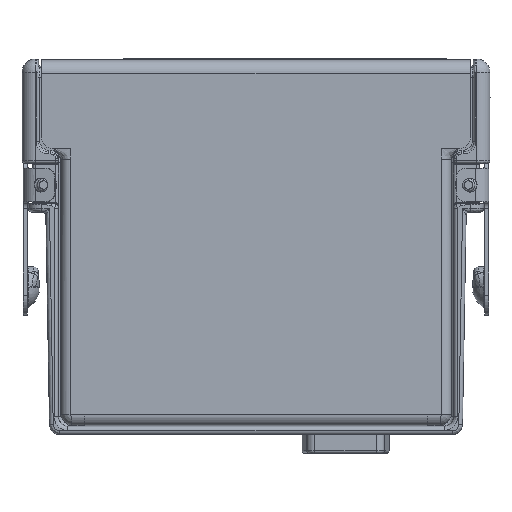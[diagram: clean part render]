
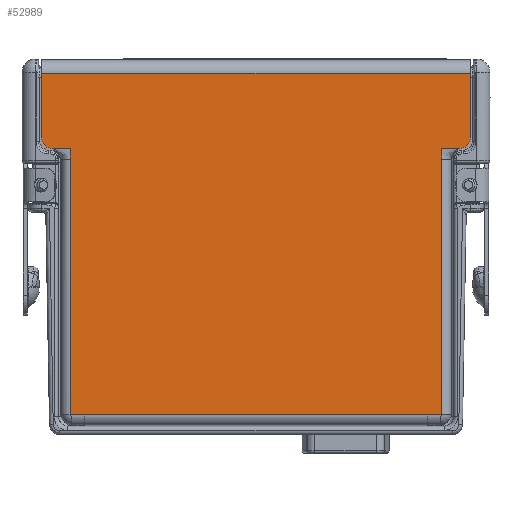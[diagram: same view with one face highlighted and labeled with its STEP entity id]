
A CAD part, left-side view. The second image highlights one B-rep face of the part: STEP entity #52989.
In plain terms, the highlighted planar face has unit normal (-1, 0, 0).
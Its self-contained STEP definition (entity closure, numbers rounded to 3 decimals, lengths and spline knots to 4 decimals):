
#17946=DIRECTION('',(0.,-1.,0.));
#17947=VECTOR('',#17946,2.543);
#17948=CARTESIAN_POINT('',(-0.4475,1.2715,0.146));
#17949=LINE('',#17948,#17947);
#17958=DIRECTION('',(0.,0.,-1.));
#17959=VECTOR('',#17958,0.476);
#17960=CARTESIAN_POINT('',(-0.4475,1.5895,2.676));
#17961=LINE('',#17960,#17959);
#17962=DIRECTION('',(0.,0.,1.));
#17963=VECTOR('',#17962,0.476);
#17964=CARTESIAN_POINT('',(-0.4475,-1.5895,2.2));
#17965=LINE('',#17964,#17963);
#17966=DIRECTION('',(0.,0.,1.));
#17967=VECTOR('',#17966,0.079);
#17968=CARTESIAN_POINT('',(-0.4475,-1.3765,2.041));
#17969=LINE('',#17968,#17967);
#17970=DIRECTION('',(0.,-1.,0.));
#17971=VECTOR('',#17970,0.105);
#17972=CARTESIAN_POINT('',(-0.4475,-1.2715,0.146));
#17973=LINE('',#17972,#17971);
#17974=DIRECTION('',(0.,-1.,0.));
#17975=VECTOR('',#17974,0.105);
#17976=CARTESIAN_POINT('',(-0.4475,1.3765,0.146));
#17977=LINE('',#17976,#17975);
#17978=DIRECTION('',(0.,0.,1.));
#17979=VECTOR('',#17978,0.079);
#17980=CARTESIAN_POINT('',(-0.4475,1.3765,2.041));
#17981=LINE('',#17980,#17979);
#17995=CARTESIAN_POINT('',(-0.4475,1.5095,2.2));
#17996=DIRECTION('',(-1.,0.,0.));
#17997=DIRECTION('',(0.,1.,0.));
#17998=AXIS2_PLACEMENT_3D('',#17995,#17996,#17997);
#18000=DIRECTION('',(0.,-1.,0.));
#18001=VECTOR('',#18000,0.133);
#18002=CARTESIAN_POINT('',(-0.4475,1.5095,2.12));
#18003=LINE('',#18002,#18001);
#18020=DIRECTION('',(0.,0.,1.));
#18021=VECTOR('',#18020,1.895);
#18022=CARTESIAN_POINT('',(-0.4475,1.3765,0.146));
#18023=LINE('',#18022,#18021);
#18475=DIRECTION('',(0.,0.,1.));
#18476=VECTOR('',#18475,1.895);
#18477=CARTESIAN_POINT('',(-0.4475,-1.3765,0.146));
#18478=LINE('',#18477,#18476);
#18510=DIRECTION('',(0.,-1.,0.));
#18511=VECTOR('',#18510,0.133);
#18512=CARTESIAN_POINT('',(-0.4475,-1.3765,2.12));
#18513=LINE('',#18512,#18511);
#18527=CARTESIAN_POINT('',(-0.4475,-1.5095,2.2));
#18528=DIRECTION('',(-1.,0.,0.));
#18529=DIRECTION('',(0.,0.,-1.));
#18530=AXIS2_PLACEMENT_3D('',#18527,#18528,#18529);
#18549=DIRECTION('',(0.,-1.,0.));
#18550=VECTOR('',#18549,3.179);
#18551=CARTESIAN_POINT('',(-0.4475,1.5895,2.676));
#18552=LINE('',#18551,#18550);
#24512=CARTESIAN_POINT('',(-0.4475,-1.5895,2.676));
#24513=VERTEX_POINT('',#24512);
#24514=CARTESIAN_POINT('',(-0.4475,1.5895,2.676));
#24515=VERTEX_POINT('',#24514);
#24544=CARTESIAN_POINT('',(-0.4475,1.2715,0.146));
#24545=CARTESIAN_POINT('',(-0.4475,-1.2715,0.146));
#24546=VERTEX_POINT('',#24544);
#24547=VERTEX_POINT('',#24545);
#24556=CARTESIAN_POINT('',(-0.4475,-1.3765,0.146));
#24557=VERTEX_POINT('',#24556);
#24568=CARTESIAN_POINT('',(-0.4475,1.3765,0.146));
#24569=VERTEX_POINT('',#24568);
#24617=CARTESIAN_POINT('',(-0.4475,1.5095,2.12));
#24619=VERTEX_POINT('',#24617);
#24622=CARTESIAN_POINT('',(-0.4475,1.5895,2.2));
#24623=VERTEX_POINT('',#24622);
#24625=CARTESIAN_POINT('',(-0.4475,-1.5895,2.2));
#24627=VERTEX_POINT('',#24625);
#24630=CARTESIAN_POINT('',(-0.4475,-1.5095,2.12));
#24631=VERTEX_POINT('',#24630);
#24644=CARTESIAN_POINT('',(-0.4475,-1.3765,2.041));
#24645=VERTEX_POINT('',#24644);
#24648=CARTESIAN_POINT('',(-0.4475,-1.3765,2.12));
#24649=VERTEX_POINT('',#24648);
#24656=CARTESIAN_POINT('',(-0.4475,1.3765,2.041));
#24657=CARTESIAN_POINT('',(-0.4475,1.3765,2.12));
#24658=VERTEX_POINT('',#24656);
#24659=VERTEX_POINT('',#24657);
#52956=CARTESIAN_POINT('',(-0.4475,0.,1.421));
#52957=DIRECTION('',(-1.,0.,0.));
#52958=DIRECTION('',(0.,1.,0.));
#52959=AXIS2_PLACEMENT_3D('',#52956,#52957,#52958);
#52960=PLANE('',#52959);
#52962=ORIENTED_EDGE('',*,*,#52961,.F.);
#52964=ORIENTED_EDGE('',*,*,#52963,.F.);
#52966=ORIENTED_EDGE('',*,*,#52965,.T.);
#52968=ORIENTED_EDGE('',*,*,#52967,.F.);
#52970=ORIENTED_EDGE('',*,*,#52969,.F.);
#52972=ORIENTED_EDGE('',*,*,#52971,.F.);
#52974=ORIENTED_EDGE('',*,*,#52973,.F.);
#52976=ORIENTED_EDGE('',*,*,#52975,.F.);
#52977=ORIENTED_EDGE('',*,*,#52939,.F.);
#52978=ORIENTED_EDGE('',*,*,#52901,.F.);
#52980=ORIENTED_EDGE('',*,*,#52979,.F.);
#52982=ORIENTED_EDGE('',*,*,#52981,.T.);
#52984=ORIENTED_EDGE('',*,*,#52983,.T.);
#52986=ORIENTED_EDGE('',*,*,#52985,.F.);
#52987=EDGE_LOOP('',(#52962,#52964,#52966,#52968,#52970,#52972,#52974,#52976,
#52977,#52978,#52980,#52982,#52984,#52986));
#52988=FACE_OUTER_BOUND('',#52987,.F.);
#52989=ADVANCED_FACE('',(#52988),#52960,.T.);
#17999=CIRCLE('',#17998,0.08);
#18531=CIRCLE('',#18530,0.08);
#52901=EDGE_CURVE('',#24546,#24547,#17949,.T.);
#52939=EDGE_CURVE('',#24547,#24557,#17973,.T.);
#52961=EDGE_CURVE('',#24623,#24619,#17999,.T.);
#52963=EDGE_CURVE('',#24515,#24623,#17961,.T.);
#52965=EDGE_CURVE('',#24515,#24513,#18552,.T.);
#52967=EDGE_CURVE('',#24627,#24513,#17965,.T.);
#52969=EDGE_CURVE('',#24631,#24627,#18531,.T.);
#52971=EDGE_CURVE('',#24649,#24631,#18513,.T.);
#52973=EDGE_CURVE('',#24645,#24649,#17969,.T.);
#52975=EDGE_CURVE('',#24557,#24645,#18478,.T.);
#52979=EDGE_CURVE('',#24569,#24546,#17977,.T.);
#52981=EDGE_CURVE('',#24569,#24658,#18023,.T.);
#52983=EDGE_CURVE('',#24658,#24659,#17981,.T.);
#52985=EDGE_CURVE('',#24619,#24659,#18003,.T.);
